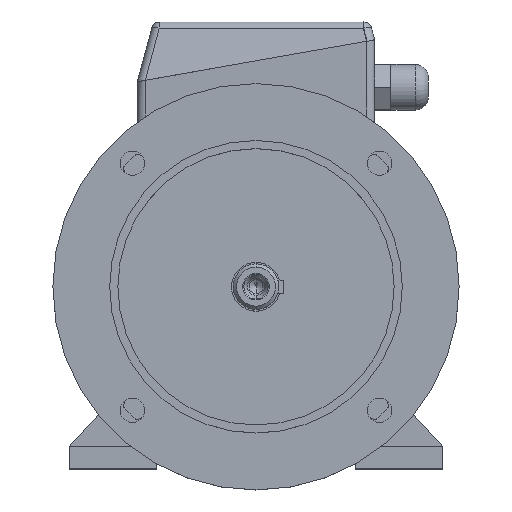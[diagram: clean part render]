
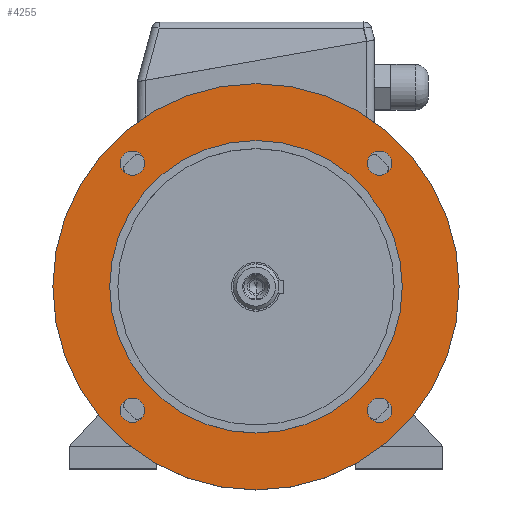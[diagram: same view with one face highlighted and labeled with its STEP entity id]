
A CAD part, top view. The second image highlights one B-rep face of the part: STEP entity #4255.
In plain terms, the highlighted planar face has unit normal (0, 0, 1).
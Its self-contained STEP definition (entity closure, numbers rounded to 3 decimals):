
#160 = CARTESIAN_POINT ( 'NONE',  ( 68.514, 76.014, 51. ) ) ;
#16635 = CARTESIAN_POINT ( 'NONE',  ( -83.514, 76.014, 51. ) ) ;
#16878 = EDGE_LOOP ( 'NONE', ( #16257, #15158 ) ) ;
#17171 = EDGE_CURVE ( 'NONE', #2919, #11457, #7495, .T. ) ;
#17571 = VERTEX_POINT ( 'NONE', #7751 ) ;
#17723 = EDGE_CURVE ( 'NONE', #18789, #17571, #7817, .T. ) ;
#1767 = CIRCLE ( 'NONE', #1768, 7.5 ) ;
#1768 = AXIS2_PLACEMENT_3D ( 'NONE', #1769, #1770, #1771 ) ;
#1769 = CARTESIAN_POINT ( 'NONE',  ( -76.014, -76.014, 51. ) ) ;
#1770 = DIRECTION ( 'NONE',  ( 0., 0., 1. ) ) ;
#1771 = DIRECTION ( 'NONE',  ( 1., 0., 0. ) ) ;
#2249 = CARTESIAN_POINT ( 'NONE',  ( 125., 0., 51. ) ) ;
#18789 = VERTEX_POINT ( 'NONE', #8823 ) ;
#2490 = CIRCLE ( 'NONE', #2491, 125. ) ;
#2491 = AXIS2_PLACEMENT_3D ( 'NONE', #2492, #2502, #2503 ) ;
#2492 = CARTESIAN_POINT ( 'NONE',  ( 0., 0., 51. ) ) ;
#2502 = DIRECTION ( 'NONE',  ( 0., 0., 1. ) ) ;
#2503 = DIRECTION ( 'NONE',  ( 1., 0., 0. ) ) ;
#2642 = EDGE_CURVE ( 'NONE', #8972, #10297, #14527, .T. ) ;
#2919 = VERTEX_POINT ( 'NONE', #14753 ) ;
#3108 = ORIENTED_EDGE ( 'NONE', *, *, #2642, .F. ) ;
#3281 = CARTESIAN_POINT ( 'NONE',  ( 83.514, -76.014, 51. ) ) ;
#3512 = CIRCLE ( 'NONE', #3513, 7.5 ) ;
#3513 = AXIS2_PLACEMENT_3D ( 'NONE', #3514, #3518, #3519 ) ;
#3514 = CARTESIAN_POINT ( 'NONE',  ( 76.014, -76.014, 51. ) ) ;
#3518 = DIRECTION ( 'NONE',  ( 0., 0., 1. ) ) ;
#3519 = DIRECTION ( 'NONE',  ( 1., 0., 0. ) ) ;
#3639 = VERTEX_POINT ( 'NONE', #15367 ) ;
#20169 = CARTESIAN_POINT ( 'NONE',  ( 83.514, 76.014, 51. ) ) ;
#3914 = EDGE_CURVE ( 'NONE', #5004, #3639, #15640, .T. ) ;
#3958 = EDGE_LOOP ( 'NONE', ( #3108, #11695 ) ) ;
#20484 = CIRCLE ( 'NONE', #20485, 7.5 ) ;
#20485 = AXIS2_PLACEMENT_3D ( 'NONE', #20486, #20487, #20488 ) ;
#20486 = CARTESIAN_POINT ( 'NONE',  ( 76.014, 76.014, 51. ) ) ;
#20487 = DIRECTION ( 'NONE',  ( 0., 0., 1. ) ) ;
#20488 = DIRECTION ( 'NONE',  ( 1., 0., 0. ) ) ;
#20571 = CARTESIAN_POINT ( 'NONE',  ( -90., 0., 51. ) ) ;
#4232 = CIRCLE ( 'NONE', #4233, 7.5 ) ;
#4233 = AXIS2_PLACEMENT_3D ( 'NONE', #4234, #4235, #4236 ) ;
#4234 = CARTESIAN_POINT ( 'NONE',  ( -76.014, 76.014, 51. ) ) ;
#4235 = DIRECTION ( 'NONE',  ( 0., 0., 1. ) ) ;
#4236 = DIRECTION ( 'NONE',  ( 1., 0., 0. ) ) ;
#4255 = ADVANCED_FACE ( 'NONE', ( #15868, #15869, #15870, #15871, #15872, #15873 ), #15874, .F. ) ;
#20649 = CIRCLE ( 'NONE', #20650, 90. ) ;
#20650 = AXIS2_PLACEMENT_3D ( 'NONE', #20656, #20657, #20658 ) ;
#20656 = CARTESIAN_POINT ( 'NONE',  ( 0., 0., 51. ) ) ;
#20657 = DIRECTION ( 'NONE',  ( 0., 0., 1. ) ) ;
#20658 = DIRECTION ( 'NONE',  ( 1., 0., 0. ) ) ;
#4336 = CARTESIAN_POINT ( 'NONE',  ( 68.514, -76.014, 51. ) ) ;
#20796 = CARTESIAN_POINT ( 'NONE',  ( 90., 0., 51. ) ) ;
#21084 = CIRCLE ( 'NONE', #21085, 90. ) ;
#21085 = AXIS2_PLACEMENT_3D ( 'NONE', #21086, #21087, #21088 ) ;
#21086 = CARTESIAN_POINT ( 'NONE',  ( 0., 0., 51. ) ) ;
#21087 = DIRECTION ( 'NONE',  ( 0., 0., 1. ) ) ;
#21088 = DIRECTION ( 'NONE',  ( 1., 0., 0. ) ) ;
#5004 = VERTEX_POINT ( 'NONE', #16635 ) ;
#6357 = CIRCLE ( 'NONE', #6358, 7.5 ) ;
#6358 = AXIS2_PLACEMENT_3D ( 'NONE', #6359, #6360, #6361 ) ;
#6359 = CARTESIAN_POINT ( 'NONE',  ( 76.014, -76.014, 51. ) ) ;
#6360 = DIRECTION ( 'NONE',  ( 0., 0., 1. ) ) ;
#6361 = DIRECTION ( 'NONE',  ( 1., 0., 0. ) ) ;
#7495 = CIRCLE ( 'NONE', #7496, 125. ) ;
#7496 = AXIS2_PLACEMENT_3D ( 'NONE', #7497, #7498, #7499 ) ;
#7497 = CARTESIAN_POINT ( 'NONE',  ( 0., 0., 51. ) ) ;
#7498 = DIRECTION ( 'NONE',  ( 0., 0., 1. ) ) ;
#7499 = DIRECTION ( 'NONE',  ( 1., 0., 0. ) ) ;
#7751 = CARTESIAN_POINT ( 'NONE',  ( -68.514, -76.014, 51. ) ) ;
#7817 = CIRCLE ( 'NONE', #7818, 7.5 ) ;
#7818 = AXIS2_PLACEMENT_3D ( 'NONE', #7819, #7820, #7821 ) ;
#7819 = CARTESIAN_POINT ( 'NONE',  ( -76.014, -76.014, 51. ) ) ;
#7820 = DIRECTION ( 'NONE',  ( 0., 0., 1. ) ) ;
#7821 = DIRECTION ( 'NONE',  ( 1., 0., 0. ) ) ;
#7964 = ORIENTED_EDGE ( 'NONE', *, *, #17171, .T. ) ;
#8590 = ORIENTED_EDGE ( 'NONE', *, *, #11540, .T. ) ;
#8823 = CARTESIAN_POINT ( 'NONE',  ( -83.514, -76.014, 51. ) ) ;
#8972 = VERTEX_POINT ( 'NONE', #20169 ) ;
#9209 = EDGE_LOOP ( 'NONE', ( #8590, #7964 ) ) ;
#9231 = EDGE_CURVE ( 'NONE', #10297, #8972, #20484, .T. ) ;
#9408 = VERTEX_POINT ( 'NONE', #20571 ) ;
#9495 = EDGE_CURVE ( 'NONE', #9408, #9680, #20649, .T. ) ;
#9680 = VERTEX_POINT ( 'NONE', #20796 ) ;
#9940 = EDGE_CURVE ( 'NONE', #9680, #9408, #21084, .T. ) ;
#9941 = ORIENTED_EDGE ( 'NONE', *, *, #9495, .F. ) ;
#10297 = VERTEX_POINT ( 'NONE', #160 ) ;
#10568 = ORIENTED_EDGE ( 'NONE', *, *, #9940, .F. ) ;
#10989 = EDGE_LOOP ( 'NONE', ( #10568, #9941 ) ) ;
#11078 = ORIENTED_EDGE ( 'NONE', *, *, #17723, .F. ) ;
#11258 = EDGE_CURVE ( 'NONE', #17571, #18789, #1767, .T. ) ;
#11381 = ORIENTED_EDGE ( 'NONE', *, *, #11258, .F. ) ;
#11457 = VERTEX_POINT ( 'NONE', #2249 ) ;
#11540 = EDGE_CURVE ( 'NONE', #11457, #2919, #2490, .T. ) ;
#11565 = EDGE_LOOP ( 'NONE', ( #11381, #11078 ) ) ;
#11695 = ORIENTED_EDGE ( 'NONE', *, *, #9231, .F. ) ;
#12260 = VERTEX_POINT ( 'NONE', #3281 ) ;
#12530 = EDGE_CURVE ( 'NONE', #13620, #12260, #3512, .T. ) ;
#12932 = ORIENTED_EDGE ( 'NONE', *, *, #3914, .F. ) ;
#13571 = EDGE_CURVE ( 'NONE', #3639, #5004, #4232, .T. ) ;
#13620 = VERTEX_POINT ( 'NONE', #4336 ) ;
#14025 = ORIENTED_EDGE ( 'NONE', *, *, #13571, .F. ) ;
#14527 = CIRCLE ( 'NONE', #14528, 7.5 ) ;
#14528 = AXIS2_PLACEMENT_3D ( 'NONE', #14529, #14530, #14543 ) ;
#14529 = CARTESIAN_POINT ( 'NONE',  ( 76.014, 76.014, 51. ) ) ;
#14530 = DIRECTION ( 'NONE',  ( 0., 0., 1. ) ) ;
#14543 = DIRECTION ( 'NONE',  ( 1., 0., 0. ) ) ;
#14753 = CARTESIAN_POINT ( 'NONE',  ( -125., 0., 51. ) ) ;
#14864 = EDGE_LOOP ( 'NONE', ( #14025, #12932 ) ) ;
#15158 = ORIENTED_EDGE ( 'NONE', *, *, #12530, .F. ) ;
#15367 = CARTESIAN_POINT ( 'NONE',  ( -68.514, 76.014, 51. ) ) ;
#15640 = CIRCLE ( 'NONE', #15641, 7.5 ) ;
#15641 = AXIS2_PLACEMENT_3D ( 'NONE', #15642, #15643, #15644 ) ;
#15642 = CARTESIAN_POINT ( 'NONE',  ( -76.014, 76.014, 51. ) ) ;
#15643 = DIRECTION ( 'NONE',  ( 0., 0., 1. ) ) ;
#15644 = DIRECTION ( 'NONE',  ( 1., 0., 0. ) ) ;
#15797 = EDGE_CURVE ( 'NONE', #12260, #13620, #6357, .T. ) ;
#15868 = FACE_BOUND ( 'NONE', #3958, .T. ) ;
#15869 = FACE_BOUND ( 'NONE', #11565, .T. ) ;
#15870 = FACE_BOUND ( 'NONE', #10989, .T. ) ;
#15871 = FACE_OUTER_BOUND ( 'NONE', #9209, .T. ) ;
#15872 = FACE_BOUND ( 'NONE', #16878, .T. ) ;
#15873 = FACE_BOUND ( 'NONE', #14864, .T. ) ;
#15874 = PLANE ( 'NONE',  #15875 ) ;
#15875 = AXIS2_PLACEMENT_3D ( 'NONE', #15876, #15877, #15878 ) ;
#15876 = CARTESIAN_POINT ( 'NONE',  ( 0., 125., 51. ) ) ;
#15877 = DIRECTION ( 'NONE',  ( 0., 0., -1. ) ) ;
#15878 = DIRECTION ( 'NONE',  ( -1., 0., 0. ) ) ;
#16257 = ORIENTED_EDGE ( 'NONE', *, *, #15797, .F. ) ;
